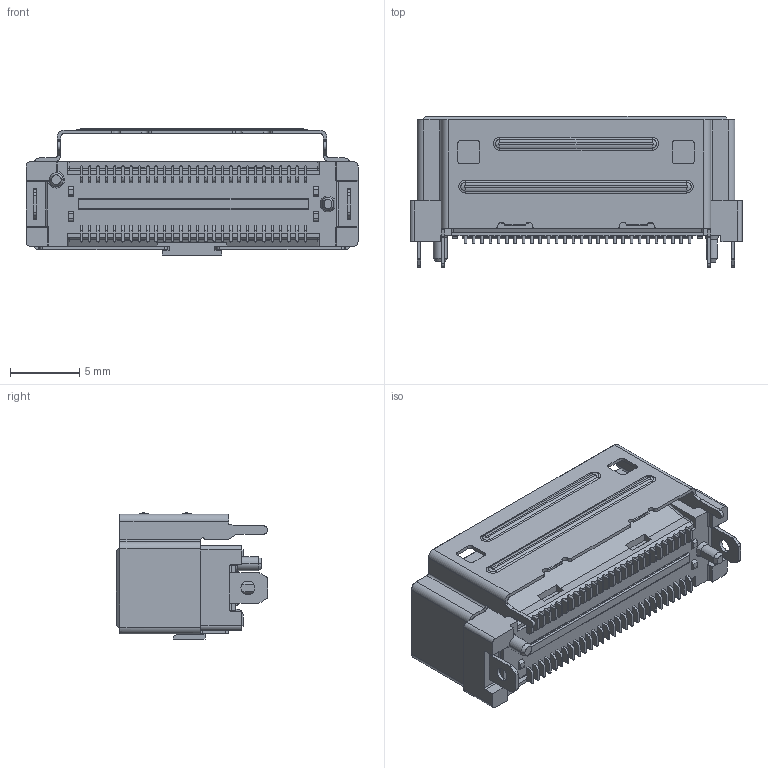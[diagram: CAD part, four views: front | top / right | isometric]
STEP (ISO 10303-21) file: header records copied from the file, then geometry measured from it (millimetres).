
FILE_DESCRIPTION((''),'2;1');
FILE_NAME('1','2026-07-11T12:41:10',('39001713'),(''),'CREO PARAMETRIC BY PTC INC, 2022244','CREO PARAMETRIC BY PTC INC, 2022244','');
FILE_SCHEMA(('CONFIG_CONTROL_DESIGN'));
Length unit declared in the file: millimetre
Products named in the file (1): 1
Bounding box: 24 x 10.92 x 9.12 mm (x, y, z)
Volume: 1018.9 mm3; surface area: 2272.3 mm2
Topology: 1 solids, 1 shells, 1347 faces, 3623 edges, 2346 vertices
Faces by surface type: plane 897, cylinder 407, cone 22, bspline 12, torus 7, sphere 2
Entity records: 42296 total; most frequent: CARTESIAN_POINT 7899, ORIENTED_EDGE 7238, DIRECTION 7074, EDGE_CURVE 3619, VECTOR 2708, LINE 2708, VERTEX_POINT 2346, AXIS2_PLACEMENT_3D 2183
